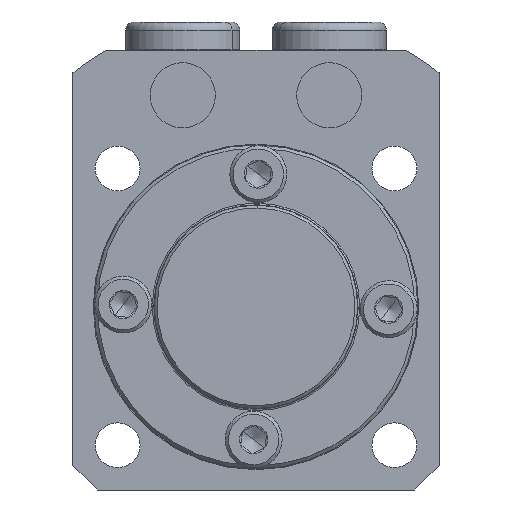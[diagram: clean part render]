
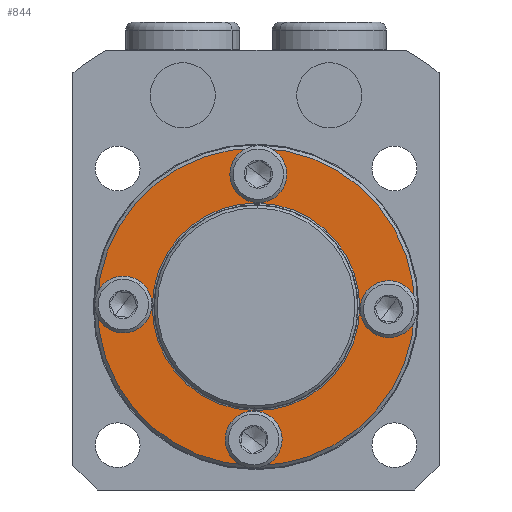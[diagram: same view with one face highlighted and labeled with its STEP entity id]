
A CAD part, front view. The second image highlights one B-rep face of the part: STEP entity #844.
In plain terms, the highlighted planar face has unit normal (0, -1, 0).
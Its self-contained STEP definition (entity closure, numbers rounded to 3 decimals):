
#274 = EDGE_LOOP ( 'NONE', ( #2376, #2377 ) ) ;
#275 = CARTESIAN_POINT ( 'NONE',  ( 0., -4., -19.5 ) ) ;
#284 = VERTEX_POINT ( 'NONE', #275 ) ;
#357 = VERTEX_POINT ( 'NONE', #1339 ) ;
#380 = VERTEX_POINT ( 'NONE', #1363 ) ;
#410 = VERTEX_POINT ( 'NONE', #1394 ) ;
#432 = VERTEX_POINT ( 'NONE', #1416 ) ;
#434 = VERTEX_POINT ( 'NONE', #1418 ) ;
#436 = VERTEX_POINT ( 'NONE', #1420 ) ;
#437 = VERTEX_POINT ( 'NONE', #1421 ) ;
#440 = VERTEX_POINT ( 'NONE', #1424 ) ;
#441 = VERTEX_POINT ( 'NONE', #1425 ) ;
#490 = VERTEX_POINT ( 'NONE', #1474 ) ;
#502 = VERTEX_POINT ( 'NONE', #1486 ) ;
#844 = ADVANCED_FACE ( 'NONE', ( #3695, #3697, #3699, #3701, #3694, #3696 ), #3703, .F. ) ;
#1156 = EDGE_LOOP ( 'NONE', ( #2386, #2387 ) ) ;
#1157 = EDGE_LOOP ( 'NONE', ( #2382, #2383 ) ) ;
#1158 = EDGE_LOOP ( 'NONE', ( #2378, #2379 ) ) ;
#1159 = EDGE_LOOP ( 'NONE', ( #2384, #2385 ) ) ;
#1160 = EDGE_LOOP ( 'NONE', ( #2380, #2381 ) ) ;
#1339 = CARTESIAN_POINT ( 'NONE',  ( 0., -4., 12.75 ) ) ;
#1363 = CARTESIAN_POINT ( 'NONE',  ( 0., -4., 19.5 ) ) ;
#1394 = CARTESIAN_POINT ( 'NONE',  ( 0., -4., -12.75 ) ) ;
#1416 = CARTESIAN_POINT ( 'NONE',  ( 16.3, -4., 2.25 ) ) ;
#1418 = CARTESIAN_POINT ( 'NONE',  ( 16.3, -4., -2.25 ) ) ;
#1420 = CARTESIAN_POINT ( 'NONE',  ( 0., -4., -14.05 ) ) ;
#1421 = CARTESIAN_POINT ( 'NONE',  ( 0., -4., -18.55 ) ) ;
#1424 = CARTESIAN_POINT ( 'NONE',  ( -16.3, -4., 2.25 ) ) ;
#1425 = CARTESIAN_POINT ( 'NONE',  ( -16.3, -4., -2.25 ) ) ;
#1474 = CARTESIAN_POINT ( 'NONE',  ( 0., -4., 18.55 ) ) ;
#1486 = CARTESIAN_POINT ( 'NONE',  ( 0., -4., 14.05 ) ) ;
#2117 = EDGE_CURVE ( 'NONE', #410, #357, #5043, .T. ) ;
#2124 = EDGE_CURVE ( 'NONE', #284, #380, #5050, .T. ) ;
#2134 = EDGE_CURVE ( 'NONE', #432, #434, #5066, .T. ) ;
#2138 = EDGE_CURVE ( 'NONE', #436, #437, #5072, .T. ) ;
#2142 = EDGE_CURVE ( 'NONE', #440, #441, #5078, .T. ) ;
#2146 = EDGE_CURVE ( 'NONE', #490, #502, #6106, .T. ) ;
#2153 = EDGE_CURVE ( 'NONE', #357, #410, #6108, .T. ) ;
#2154 = EDGE_CURVE ( 'NONE', #380, #284, #6115, .T. ) ;
#2155 = EDGE_CURVE ( 'NONE', #434, #432, #6117, .T. ) ;
#2156 = EDGE_CURVE ( 'NONE', #437, #436, #6119, .T. ) ;
#2157 = EDGE_CURVE ( 'NONE', #441, #440, #6121, .T. ) ;
#2158 = EDGE_CURVE ( 'NONE', #502, #490, #6123, .T. ) ;
#2376 = ORIENTED_EDGE ( 'NONE', *, *, #2153, .T. ) ;
#2377 = ORIENTED_EDGE ( 'NONE', *, *, #2117, .T. ) ;
#2378 = ORIENTED_EDGE ( 'NONE', *, *, #2154, .T. ) ;
#2379 = ORIENTED_EDGE ( 'NONE', *, *, #2124, .T. ) ;
#2380 = ORIENTED_EDGE ( 'NONE', *, *, #2155, .F. ) ;
#2381 = ORIENTED_EDGE ( 'NONE', *, *, #2134, .F. ) ;
#2382 = ORIENTED_EDGE ( 'NONE', *, *, #2156, .F. ) ;
#2383 = ORIENTED_EDGE ( 'NONE', *, *, #2138, .F. ) ;
#2384 = ORIENTED_EDGE ( 'NONE', *, *, #2157, .F. ) ;
#2385 = ORIENTED_EDGE ( 'NONE', *, *, #2142, .F. ) ;
#2386 = ORIENTED_EDGE ( 'NONE', *, *, #2158, .F. ) ;
#2387 = ORIENTED_EDGE ( 'NONE', *, *, #2146, .F. ) ;
#3420 = AXIS2_PLACEMENT_3D ( 'NONE', #3700, #3704, #3705 ) ;
#3636 = AXIS2_PLACEMENT_3D ( 'NONE', #5885, #5886, #5887 ) ;
#3694 = FACE_BOUND ( 'NONE', #1159, .T. ) ;
#3695 = FACE_BOUND ( 'NONE', #274, .T. ) ;
#3696 = FACE_BOUND ( 'NONE', #1156, .T. ) ;
#3697 = FACE_OUTER_BOUND ( 'NONE', #1158, .T. ) ;
#3699 = FACE_BOUND ( 'NONE', #1160, .T. ) ;
#3700 = CARTESIAN_POINT ( 'NONE',  ( 0., -4., 0. ) ) ;
#3701 = FACE_BOUND ( 'NONE', #1157, .T. ) ;
#3703 = PLANE ( 'NONE',  #3420 ) ;
#3704 = DIRECTION ( 'NONE',  ( 0., 1., 0. ) ) ;
#3705 = DIRECTION ( 'NONE',  ( 0., 0., 1. ) ) ;
#5042 = AXIS2_PLACEMENT_3D ( 'NONE', #5809, #5810, #5811 ) ;
#5043 = CIRCLE ( 'NONE', #5042, 12.75 ) ;
#5050 = CIRCLE ( 'NONE', #5055, 19.5 ) ;
#5055 = AXIS2_PLACEMENT_3D ( 'NONE', #5831, #5832, #5833 ) ;
#5066 = CIRCLE ( 'NONE', #5070, 2.25 ) ;
#5070 = AXIS2_PLACEMENT_3D ( 'NONE', #5861, #5862, #5863 ) ;
#5072 = CIRCLE ( 'NONE', #5076, 2.25 ) ;
#5076 = AXIS2_PLACEMENT_3D ( 'NONE', #5873, #5874, #5875 ) ;
#5078 = CIRCLE ( 'NONE', #3636, 2.25 ) ;
#5809 = CARTESIAN_POINT ( 'NONE',  ( 0., -4., 0. ) ) ;
#5810 = DIRECTION ( 'NONE',  ( 0., 1., 0. ) ) ;
#5811 = DIRECTION ( 'NONE',  ( 0., 0., 1. ) ) ;
#5831 = CARTESIAN_POINT ( 'NONE',  ( 0., -4., 0. ) ) ;
#5832 = DIRECTION ( 'NONE',  ( 0., -1., 0. ) ) ;
#5833 = DIRECTION ( 'NONE',  ( 0., 0., 1. ) ) ;
#5861 = CARTESIAN_POINT ( 'NONE',  ( 16.3, -4., 0. ) ) ;
#5862 = DIRECTION ( 'NONE',  ( 0., -1., 0. ) ) ;
#5863 = DIRECTION ( 'NONE',  ( -1., 0., 0. ) ) ;
#5873 = CARTESIAN_POINT ( 'NONE',  ( 0., -4., -16.3 ) ) ;
#5874 = DIRECTION ( 'NONE',  ( 0., -1., 0. ) ) ;
#5875 = DIRECTION ( 'NONE',  ( 0., 0., 1. ) ) ;
#5885 = CARTESIAN_POINT ( 'NONE',  ( -16.3, -4., 0. ) ) ;
#5886 = DIRECTION ( 'NONE',  ( 0., -1., 0. ) ) ;
#5887 = DIRECTION ( 'NONE',  ( 1., 0., 0. ) ) ;
#5899 = CARTESIAN_POINT ( 'NONE',  ( 0., -4., 16.3 ) ) ;
#5900 = DIRECTION ( 'NONE',  ( 0., -1., 0. ) ) ;
#5901 = DIRECTION ( 'NONE',  ( 0., 0., -1. ) ) ;
#5916 = CARTESIAN_POINT ( 'NONE',  ( 0., -4., 0. ) ) ;
#5917 = DIRECTION ( 'NONE',  ( 0., 1., 0. ) ) ;
#5918 = DIRECTION ( 'NONE',  ( 0., 0., 1. ) ) ;
#5919 = CARTESIAN_POINT ( 'NONE',  ( 0., -4., 0. ) ) ;
#5920 = DIRECTION ( 'NONE',  ( 0., -1., 0. ) ) ;
#5921 = DIRECTION ( 'NONE',  ( 0., 0., 1. ) ) ;
#5922 = CARTESIAN_POINT ( 'NONE',  ( 16.3, -4., 0. ) ) ;
#5923 = DIRECTION ( 'NONE',  ( 0., -1., 0. ) ) ;
#5924 = DIRECTION ( 'NONE',  ( -1., 0., 0. ) ) ;
#5925 = CARTESIAN_POINT ( 'NONE',  ( 0., -4., -16.3 ) ) ;
#5926 = DIRECTION ( 'NONE',  ( 0., -1., 0. ) ) ;
#5927 = DIRECTION ( 'NONE',  ( 0., 0., 1. ) ) ;
#5928 = CARTESIAN_POINT ( 'NONE',  ( -16.3, -4., 0. ) ) ;
#5929 = DIRECTION ( 'NONE',  ( 0., -1., 0. ) ) ;
#5930 = DIRECTION ( 'NONE',  ( 1., 0., 0. ) ) ;
#5931 = CARTESIAN_POINT ( 'NONE',  ( 0., -4., 16.3 ) ) ;
#5932 = DIRECTION ( 'NONE',  ( 0., -1., 0. ) ) ;
#5933 = DIRECTION ( 'NONE',  ( 0., 0., -1. ) ) ;
#6106 = CIRCLE ( 'NONE', #6107, 2.25 ) ;
#6107 = AXIS2_PLACEMENT_3D ( 'NONE', #5899, #5900, #5901 ) ;
#6108 = CIRCLE ( 'NONE', #6116, 12.75 ) ;
#6115 = CIRCLE ( 'NONE', #6118, 19.5 ) ;
#6116 = AXIS2_PLACEMENT_3D ( 'NONE', #5916, #5917, #5918 ) ;
#6117 = CIRCLE ( 'NONE', #6120, 2.25 ) ;
#6118 = AXIS2_PLACEMENT_3D ( 'NONE', #5919, #5920, #5921 ) ;
#6119 = CIRCLE ( 'NONE', #6122, 2.25 ) ;
#6120 = AXIS2_PLACEMENT_3D ( 'NONE', #5922, #5923, #5924 ) ;
#6121 = CIRCLE ( 'NONE', #6124, 2.25 ) ;
#6122 = AXIS2_PLACEMENT_3D ( 'NONE', #5925, #5926, #5927 ) ;
#6123 = CIRCLE ( 'NONE', #6126, 2.25 ) ;
#6124 = AXIS2_PLACEMENT_3D ( 'NONE', #5928, #5929, #5930 ) ;
#6126 = AXIS2_PLACEMENT_3D ( 'NONE', #5931, #5932, #5933 ) ;
